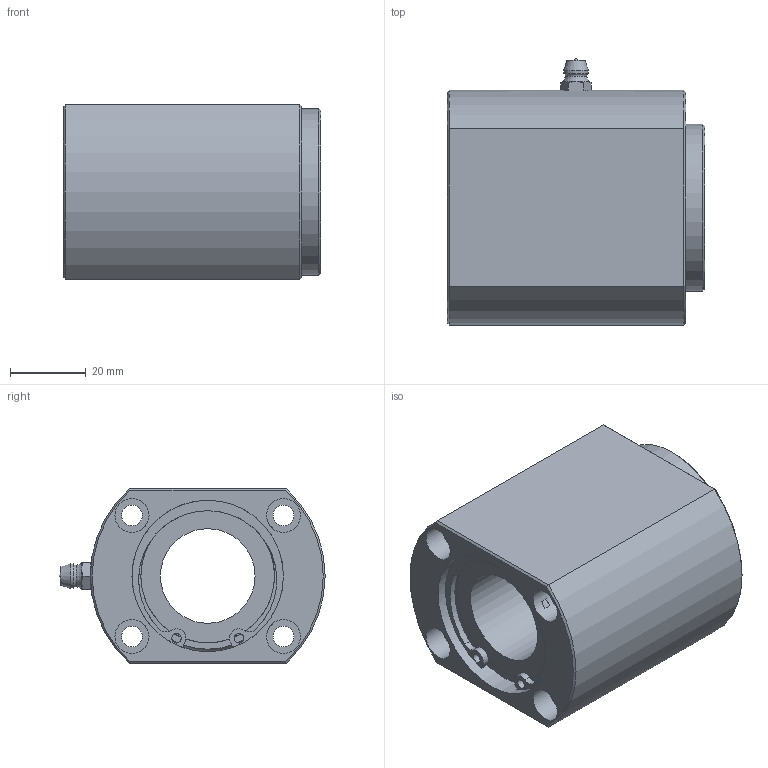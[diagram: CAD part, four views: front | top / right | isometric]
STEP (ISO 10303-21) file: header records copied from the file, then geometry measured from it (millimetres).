
FILE_DESCRIPTION((''),'2;1');
FILE_NAME('D:\製品 (図面)\カタログ用3D\リニアベアリング関連(改)\STEP形式\CTB\CTB25.stp','2010-01-25T09:48:07',('Tsuchiya'),(''),'Autodesk Inventor 10','Autodesk Inventor 10','');
FILE_SCHEMA(('AUTOMOTIVE_DESIGN { 1 0 10303 214 1 1 1 1 }'));
Length unit declared in the file: millimetre
Products named in the file (1): CTB25
Bounding box: 68 x 70.3 x 46 mm (x, y, z)
Volume: 122177.1 mm3; surface area: 29188.2 mm2
Topology: 1 solids, 3 shells, 115 faces, 296 edges, 182 vertices
Faces by surface type: plane 52, cylinder 31, bspline 16, cone 12, sphere 2, torus 2
Full cylindrical faces by diameter (mm): 2.5 x2, 5.5 x4, 9 x4, 25 x1, 35.3 x2, 38 x2, 40 x4, 44 x1
Entity records: 3404 total; most frequent: CARTESIAN_POINT 776, DIRECTION 586, ORIENTED_EDGE 482, AXIS2_PLACEMENT_3D 265, EDGE_CURVE 241, EDGE_LOOP 178, VERTEX_POINT 161, CIRCLE 161
